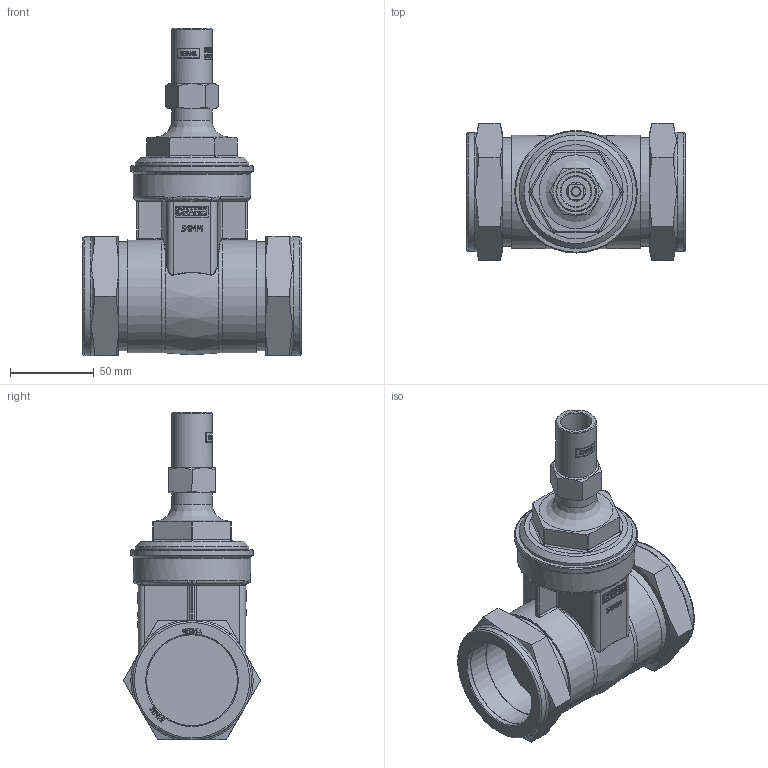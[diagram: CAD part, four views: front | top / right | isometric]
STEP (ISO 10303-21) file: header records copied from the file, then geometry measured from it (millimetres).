
FILE_DESCRIPTION((''),'2;1');
FILE_NAME('P:\Fastrack\53972_CRANE 3D\Gate Valves\Work Space\Lockshield\D255C_54mm\D255C_54mm.stp','2011-03-14T12:17:39',('btaylor'),(''),'Autodesk Inventor 2008','Autodesk Inventor 2008','');
FILE_SCHEMA(('AUTOMOTIVE_DESIGN { 1 0 10303 214 1 1 1 1 }'));
Length unit declared in the file: millimetre
Products named in the file (1): D255C_54mm
Bounding box: 130.52 x 81.98 x 195.5 mm (x, y, z)
Volume: 544912.7 mm3; surface area: 87554.2 mm2
Topology: 1 solids, 3 shells, 1280 faces, 3394 edges, 2223 vertices
Faces by surface type: plane 673, bspline 412, cylinder 115, cone 60, torus 20
Full cylindrical faces by diameter (mm): 6 x1, 11.2 x1, 11.5 x1, 16.7 x1, 18 x1, 22.376 x1, 24 x2, 54.274 x1, 54.275 x1, 54.3 x2, 54.35 x2, 65 x4, 67.6 x2, 67.8 x1, 70 x1, 70.9 x2, 73.2 x1
Entity records: 104538 total; most frequent: CARTESIAN_POINT 75074, ORIENTED_EDGE 6596, DIRECTION 4327, EDGE_CURVE 3298, VERTEX_POINT 2196, VECTOR 1817, LINE 1817, EDGE_LOOP 1454
